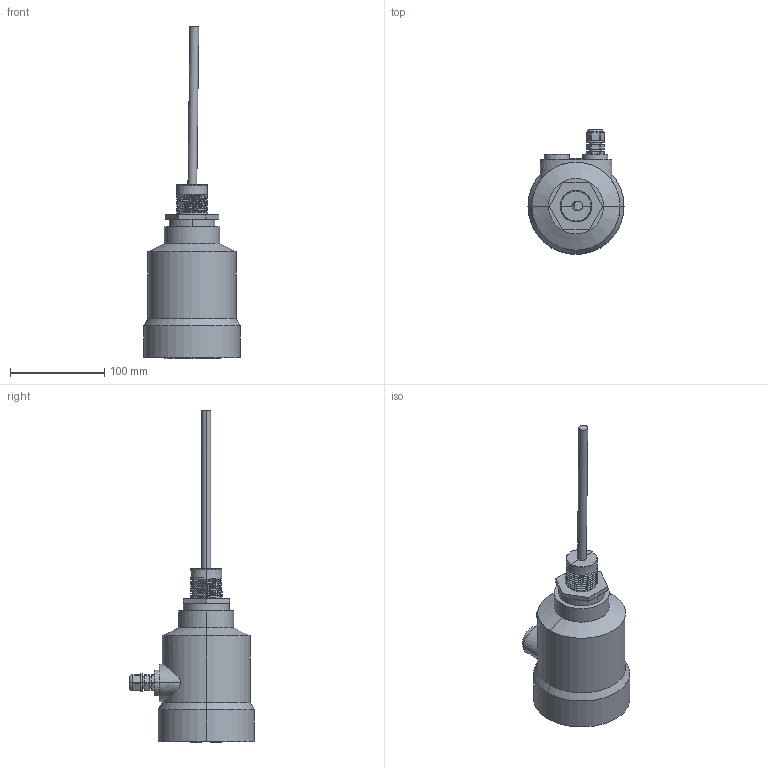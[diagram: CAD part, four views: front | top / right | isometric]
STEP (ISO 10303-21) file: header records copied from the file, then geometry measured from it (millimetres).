
FILE_DESCRIPTION((''),'2;1');
FILE_NAME('KLD702_ASM','2025-12-30T15:25:59',('28740194'),(''),'CREO PARAMETRIC BY PTC INC, 2024063','CREO PARAMETRIC BY PTC INC, 2024063','');
FILE_SCHEMA(('CONFIG_CONTROL_DESIGN'));
Length unit declared in the file: millimetre
Products named in the file (10): 00; 1; EV214_27005336_DUMMY_MIR; EV214_27005336_02_MIR; EV214_27005336_03_MIR; EV214_27005336_04_MIR; EV214_27005336_06_MIR; EV214_27005336_07_MIR; ASM0003__ASM; KLD702_ASM
Assembly tree (9 placements, depth 3):
  KLD702_ASM
    00
    1
    ASM0003__ASM
      EV214_27005336_DUMMY_MIR
      EV214_27005336_02_MIR
      EV214_27005336_03_MIR
      EV214_27005336_04_MIR
      EV214_27005336_06_MIR
      EV214_27005336_07_MIR
Bounding box: 101.93 x 132.3 x 351.92 mm (x, y, z)
Volume: 992348.6 mm3; surface area: 76407.9 mm2
Topology: 7 solids, 11 shells, 576 faces, 1576 edges, 1045 vertices
Faces by surface type: plane 442, cylinder 82, cone 36, torus 8, bspline 6, extrusion 2
Entity records: 20675 total; most frequent: CARTESIAN_POINT 5613, ORIENTED_EDGE 3136, DIRECTION 3021, EDGE_CURVE 1576, VECTOR 1199, LINE 1197, VERTEX_POINT 1045, AXIS2_PLACEMENT_3D 911
